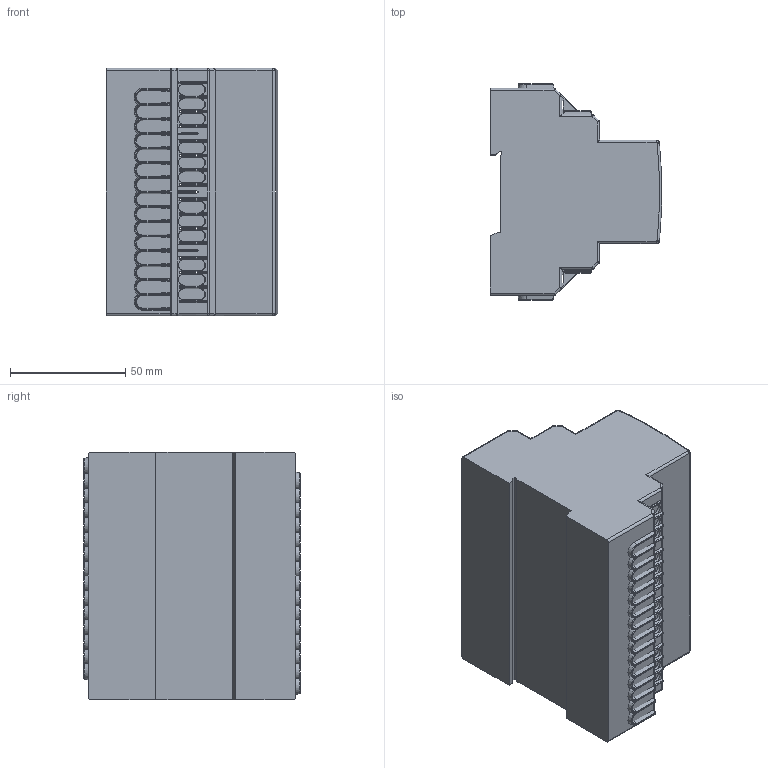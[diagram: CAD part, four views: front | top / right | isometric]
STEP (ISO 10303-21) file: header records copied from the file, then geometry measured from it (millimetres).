
FILE_DESCRIPTION(/* description */ (''),/* implementation_level */ '2;1');
FILE_NAME(/* name */ 'X:\Digidirect\CAD\Importierte Komponenten\EDS461\EDS461 Umgewandelt.stp',/* time_stamp */ '2013-10-10T12:29:14+02:00',/* author */ ('Maik Jost'),/* organization */ (''),/* preprocessor_version */ 'ST-DEVELOPER v15.2',/* originating_system */ 'Autodesk Inventor 2014',/* authorisation */ '');
FILE_SCHEMA (('CONFIG_CONTROL_DESIGN'));
Length unit declared in the file: millimetre
Products named in the file (2): EDS461_Substitute_5; EDS461
Bounding box: 74.39 x 94 x 107.5 mm (x, y, z)
Surface area: 49979.1 mm2 (no closed solid volume)
Topology: 0 solids, 11 shells, 864 faces, 3227 edges, 2284 vertices
Faces by surface type: plane 282, cylinder 273, bspline 119, cone 108, torus 66, sphere 16
Entity records: 36939 total; most frequent: CARTESIAN_POINT 11257, DIRECTION 5355, ORIENTED_EDGE 4874, EDGE_CURVE 3219, VERTEX_POINT 2284, AXIS2_PLACEMENT_3D 1838, LINE 1679, VECTOR 1679
